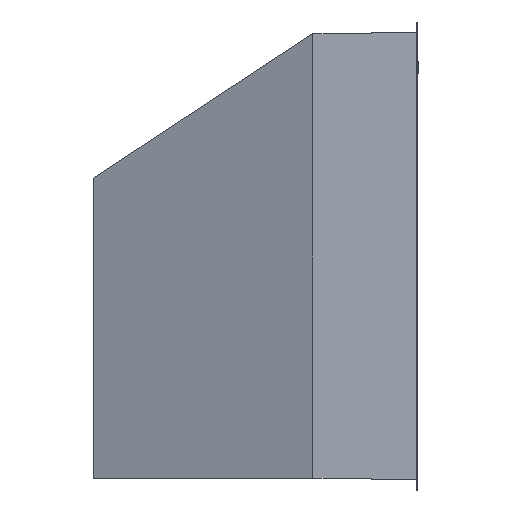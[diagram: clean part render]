
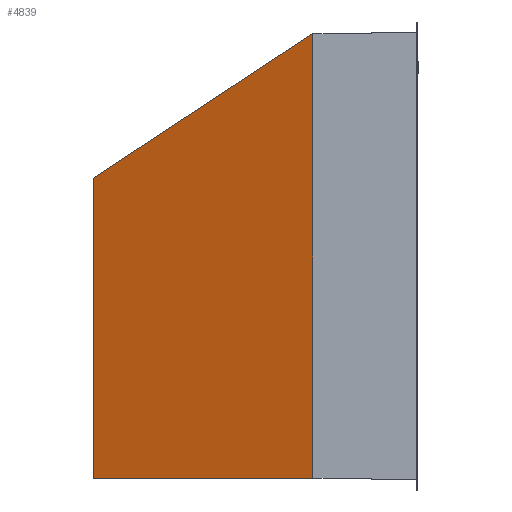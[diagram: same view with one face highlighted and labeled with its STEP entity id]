
A CAD part, left-side view. The second image highlights one B-rep face of the part: STEP entity #4839.
In plain terms, the highlighted planar face has unit normal (-0.94, 0.342, 0).
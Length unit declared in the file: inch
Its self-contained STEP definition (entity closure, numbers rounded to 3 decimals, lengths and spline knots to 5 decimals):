
#361=DIRECTION('',(-0.291,-0.799,0.526));
#362=VECTOR('',#361,11.88563);
#363=CARTESIAN_POINT('',(-10.70578,14.,13.));
#364=LINE('',#363,#362);
#477=DIRECTION('',(-0.342,-0.94,0.));
#478=VECTOR('',#477,10.10969);
#479=CARTESIAN_POINT('',(-10.70578,14.,0.));
#480=LINE('',#479,#478);
#498=DIRECTION('',(0.,0.,1.));
#499=VECTOR('',#498,13.);
#500=CARTESIAN_POINT('',(-10.70578,14.,0.));
#501=LINE('',#500,#499);
#512=DIRECTION('',(0.,0.,1.));
#513=VECTOR('',#512,19.25);
#514=CARTESIAN_POINT('',(-14.1635,4.5,0.));
#515=LINE('',#514,#513);
#4053=CARTESIAN_POINT('',(-14.1635,4.5,0.));
#4054=CARTESIAN_POINT('',(-14.1635,4.5,19.25));
#4055=VERTEX_POINT('',#4053);
#4056=VERTEX_POINT('',#4054);
#4057=CARTESIAN_POINT('',(-10.70578,14.,0.));
#4058=CARTESIAN_POINT('',(-10.70578,14.,13.));
#4059=VERTEX_POINT('',#4057);
#4060=VERTEX_POINT('',#4058);
#4827=CARTESIAN_POINT('',(-10.70578,14.,0.));
#4828=DIRECTION('',(-0.94,0.342,0.));
#4829=DIRECTION('',(-0.342,-0.94,0.));
#4830=AXIS2_PLACEMENT_3D('',#4827,#4828,#4829);
#4831=PLANE('',#4830);
#4833=ORIENTED_EDGE('',*,*,#4832,.F.);
#4834=ORIENTED_EDGE('',*,*,#4804,.F.);
#4835=ORIENTED_EDGE('',*,*,#4820,.T.);
#4836=ORIENTED_EDGE('',*,*,#4687,.T.);
#4837=EDGE_LOOP('',(#4833,#4834,#4835,#4836));
#4838=FACE_OUTER_BOUND('',#4837,.F.);
#4839=ADVANCED_FACE('',(#4838),#4831,.T.);
#4687=EDGE_CURVE('',#4060,#4056,#364,.T.);
#4804=EDGE_CURVE('',#4059,#4055,#480,.T.);
#4820=EDGE_CURVE('',#4059,#4060,#501,.T.);
#4832=EDGE_CURVE('',#4055,#4056,#515,.T.);
